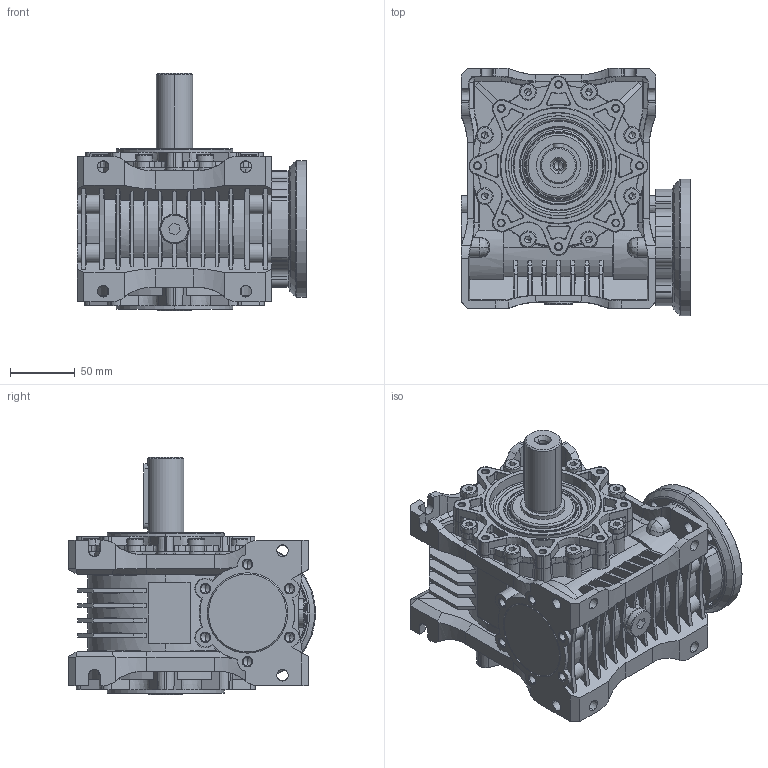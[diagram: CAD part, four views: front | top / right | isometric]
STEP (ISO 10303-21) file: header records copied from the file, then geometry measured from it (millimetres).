
FILE_DESCRIPTION (( 'STEP AP203' ), '1' );
FILE_NAME ('MR-63_105-14_WJ-2_3D.STEP', '2023-01-20T12:38:00', ( '' ), ( '' ), 'SwSTEP 2.0', 'SolidWorks 2022', '' );
FILE_SCHEMA (( 'CONFIG_CONTROL_DESIGN' ));
Length unit declared in the file: millimetre
Products named in the file (1): MR-63_105-14_WJ-2_3D
Bounding box: 177 x 190.5 x 183 mm (x, y, z)
Volume: 2181791.4 mm3; surface area: 305163.9 mm2
Topology: 1 solids, 36 shells, 2638 faces, 6800 edges, 4230 vertices
Faces by surface type: plane 937, cone 731, cylinder 540, torus 262, bspline 130, sphere 38
Entity records: 85108 total; most frequent: CARTESIAN_POINT 22438, ORIENTED_EDGE 13428, DIRECTION 13088, EDGE_CURVE 6714, AXIS2_PLACEMENT_3D 5030, VERTEX_POINT 4230, LINE 3028, VECTOR 3028
